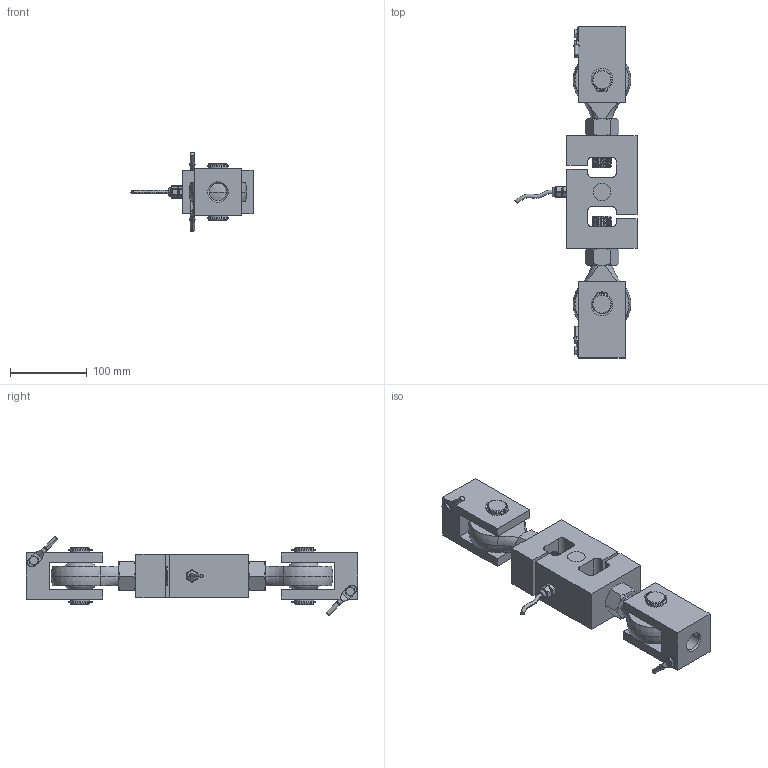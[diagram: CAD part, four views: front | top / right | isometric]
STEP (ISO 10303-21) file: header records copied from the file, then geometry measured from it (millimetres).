
FILE_DESCRIPTION (( 'STEP AP203' ), '1' );
FILE_NAME ('HI LPTLB-11KLB.STEP', '2014-10-14T22:13:55', ( '' ), ( '' ), 'SwSTEP 2.0', 'SolidWorks 2013', '' );
FILE_SCHEMA (( 'CONFIG_CONTROL_DESIGN' ));
Length unit declared in the file: millimetre
Products named in the file (12): heavy duty external retaining ring_am_B27.8M - 3DM1-25; Cable and Adapter; HI LPTLB-11KLB; hex finished bolt_ai_HFBOLT 0.25-20x0.375x0.375-C; Clevis Pin; Clevis; Copper; Ground Strap Lug; Male Rod End_60745K741; Load Element; hex nut_ai_HNUT 1.0000-8-D-S; Element Core
Assembly tree (21 placements, depth 2):
  HI LPTLB-11KLB
    Load Element
    Element Core
    Cable and Adapter
    hex finished bolt_ai_HFBOLT 0.25-20x0.375x0.375-C  x2
    Clevis Pin  x2
    Clevis  x2
    Copper  x2
    Ground Strap Lug  x2
    Male Rod End_60745K741  x2
    hex nut_ai_HNUT 1.0000-8-D-S  x2
    heavy duty external retaining ring_am_B27.8M - 3DM1-25  x4
Bounding box: 158.72 x 431.8 x 103.1 mm (x, y, z)
Volume: 1372707.9 mm3; surface area: 249321.5 mm2
Topology: 27 solids, 27 shells, 1082 faces, 2362 edges, 1336 vertices
Faces by surface type: cylinder 444, cone 372, plane 194, bspline 36, sphere 20, torus 16
Entity records: 23849 total; most frequent: CARTESIAN_POINT 9653, DIRECTION 2740, ORIENTED_EDGE 2554, EDGE_CURVE 1277, AXIS2_PLACEMENT_3D 1081, VERTEX_POINT 727, EDGE_LOOP 624, ADVANCED_FACE 588
